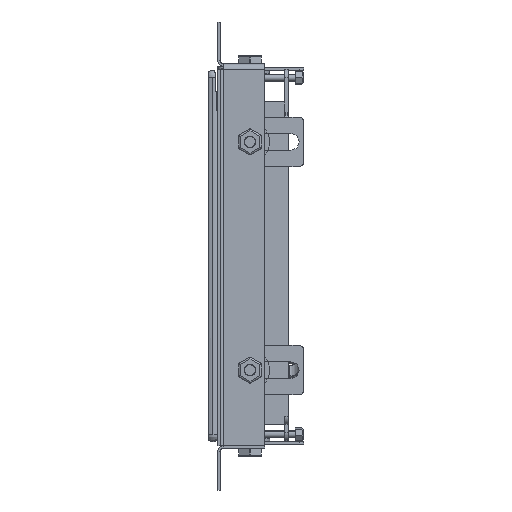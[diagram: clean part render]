
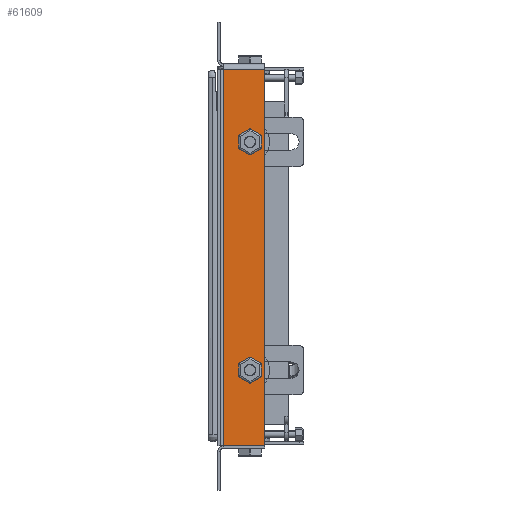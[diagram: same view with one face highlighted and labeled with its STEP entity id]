
A CAD part, left-side view. The second image highlights one B-rep face of the part: STEP entity #61609.
In plain terms, the highlighted planar face has unit normal (-1, 0, 0).
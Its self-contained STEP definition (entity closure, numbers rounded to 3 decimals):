
#160 = LINE ( 'NONE', #56286, #45883 ) ;
#648 = CARTESIAN_POINT ( 'NONE',  ( -198., -12.8, -58.492 ) ) ;
#1014 = DIRECTION ( 'NONE',  ( 0., 1., 0. ) ) ;
#1344 = ORIENTED_EDGE ( 'NONE', *, *, #65567, .F. ) ;
#1903 = VERTEX_POINT ( 'NONE', #61807 ) ;
#2251 = VECTOR ( 'NONE', #29715, 1000. ) ;
#2343 = ORIENTED_EDGE ( 'NONE', *, *, #48770, .F. ) ;
#2355 = CARTESIAN_POINT ( 'NONE',  ( -198., -3.5, -102.5 ) ) ;
#3983 = CARTESIAN_POINT ( 'NONE',  ( -198., -26.2, -54.508 ) ) ;
#5868 = DIRECTION ( 'NONE',  ( 0., 0., -1. ) ) ;
#6470 = CARTESIAN_POINT ( 'NONE',  ( -198., -14.425, -51.694 ) ) ;
#7183 = VECTOR ( 'NONE', #69255, 1000. ) ;
#7687 = VECTOR ( 'NONE', #16863, 1000. ) ;
#8116 = CARTESIAN_POINT ( 'NONE',  ( -198., -21.125, -49.702 ) ) ;
#8741 = EDGE_LOOP ( 'NONE', ( #2343, #39932, #14284, #12449, #22047, #1344 ) ) ;
#8773 = CARTESIAN_POINT ( 'NONE',  ( -198., -19.5, 74.764 ) ) ;
#8813 = VERTEX_POINT ( 'NONE', #9212 ) ;
#9212 = CARTESIAN_POINT ( 'NONE',  ( -198., -19.5, 90.236 ) ) ;
#10204 = EDGE_CURVE ( 'NONE', #49411, #13620, #62606, .T. ) ;
#10438 = LINE ( 'NONE', #65485, #70244 ) ;
#10554 = VECTOR ( 'NONE', #69208, 1000. ) ;
#10914 = VERTEX_POINT ( 'NONE', #61425 ) ;
#11420 = DIRECTION ( 'NONE',  ( 0., -0.866, -0.5 ) ) ;
#11915 = EDGE_CURVE ( 'NONE', #8813, #31139, #10438, .T. ) ;
#12449 = ORIENTED_EDGE ( 'NONE', *, *, #11915, .F. ) ;
#12646 = DIRECTION ( 'NONE',  ( 0., 0., 1. ) ) ;
#12898 = LINE ( 'NONE', #23264, #41042 ) ;
#13620 = VERTEX_POINT ( 'NONE', #57402 ) ;
#14284 = ORIENTED_EDGE ( 'NONE', *, *, #24656, .F. ) ;
#16081 = CARTESIAN_POINT ( 'NONE',  ( -198., -26.2, -52.632 ) ) ;
#16178 = EDGE_LOOP ( 'NONE', ( #72691, #56900, #62225, #46410 ) ) ;
#16863 = DIRECTION ( 'NONE',  ( 0., 0.866, -0.5 ) ) ;
#18143 = AXIS2_PLACEMENT_3D ( 'NONE', #34159, #61928, #1014 ) ;
#18271 = EDGE_CURVE ( 'NONE', #36305, #64346, #53685, .T. ) ;
#19042 = LINE ( 'NONE', #66043, #48045 ) ;
#19091 = CARTESIAN_POINT ( 'NONE',  ( -198., -19.5, -64.236 ) ) ;
#20572 = LINE ( 'NONE', #51703, #55760 ) ;
#21681 = EDGE_CURVE ( 'NONE', #49573, #64346, #36964, .T. ) ;
#22047 = ORIENTED_EDGE ( 'NONE', *, *, #44603, .F. ) ;
#22512 = EDGE_CURVE ( 'NONE', #72817, #50843, #63990, .T. ) ;
#22734 = EDGE_CURVE ( 'NONE', #30781, #72817, #55055, .T. ) ;
#22995 = CARTESIAN_POINT ( 'NONE',  ( -198., -17.875, -63.298 ) ) ;
#23264 = CARTESIAN_POINT ( 'NONE',  ( -198., -21.125, 89.298 ) ) ;
#24656 = EDGE_CURVE ( 'NONE', #31139, #10914, #160, .T. ) ;
#25028 = DIRECTION ( 'NONE',  ( 0., -0.866, -0.5 ) ) ;
#25077 = LINE ( 'NONE', #36091, #2251 ) ;
#25147 = VECTOR ( 'NONE', #59046, 1000. ) ;
#27856 = ORIENTED_EDGE ( 'NONE', *, *, #22512, .F. ) ;
#28538 = ORIENTED_EDGE ( 'NONE', *, *, #22734, .F. ) ;
#29205 = VECTOR ( 'NONE', #42799, 1000. ) ;
#29356 = LINE ( 'NONE', #34955, #72385 ) ;
#29715 = DIRECTION ( 'NONE',  ( 0., 0., 1. ) ) ;
#29931 = CARTESIAN_POINT ( 'NONE',  ( -198., -1.5, 126.5 ) ) ;
#30110 = LINE ( 'NONE', #64811, #34487 ) ;
#30781 = VERTEX_POINT ( 'NONE', #16081 ) ;
#30844 = VECTOR ( 'NONE', #12646, 1000. ) ;
#31139 = VERTEX_POINT ( 'NONE', #49399 ) ;
#32162 = DIRECTION ( 'NONE',  ( 0., -1., 0. ) ) ;
#34159 = CARTESIAN_POINT ( 'NONE',  ( -198., -1.5, 126.5 ) ) ;
#34435 = LINE ( 'NONE', #648, #42337 ) ;
#34487 = VECTOR ( 'NONE', #25028, 1000. ) ;
#34955 = CARTESIAN_POINT ( 'NONE',  ( -198., -28.5, 126.5 ) ) ;
#36091 = CARTESIAN_POINT ( 'NONE',  ( -198., -26.2, 84.492 ) ) ;
#36305 = VERTEX_POINT ( 'NONE', #66610 ) ;
#36964 = LINE ( 'NONE', #41371, #30844 ) ;
#37846 = EDGE_CURVE ( 'NONE', #1903, #49411, #72811, .T. ) ;
#38626 = CARTESIAN_POINT ( 'NONE',  ( -198., -26.2, 86.368 ) ) ;
#38711 = VERTEX_POINT ( 'NONE', #8773 ) ;
#39932 = ORIENTED_EDGE ( 'NONE', *, *, #49209, .F. ) ;
#40047 = ORIENTED_EDGE ( 'NONE', *, *, #37846, .F. ) ;
#41042 = VECTOR ( 'NONE', #62061, 1000. ) ;
#41371 = CARTESIAN_POINT ( 'NONE',  ( -198., -3.5, -102.5 ) ) ;
#42337 = VECTOR ( 'NONE', #56217, 1000. ) ;
#42616 = FACE_BOUND ( 'NONE', #8741, .T. ) ;
#42799 = DIRECTION ( 'NONE',  ( 0., 0., 1. ) ) ;
#43325 = LINE ( 'NONE', #3983, #29205 ) ;
#44603 = EDGE_CURVE ( 'NONE', #66711, #8813, #12898, .T. ) ;
#45123 = EDGE_LOOP ( 'NONE', ( #40047, #59085, #27856, #28538, #57718, #58842 ) ) ;
#45783 = DIRECTION ( 'NONE',  ( 0., -0.866, 0.5 ) ) ;
#45883 = VECTOR ( 'NONE', #5868, 1000. ) ;
#46410 = ORIENTED_EDGE ( 'NONE', *, *, #18271, .T. ) ;
#46707 = CARTESIAN_POINT ( 'NONE',  ( -198., -26.2, 78.632 ) ) ;
#47005 = FACE_OUTER_BOUND ( 'NONE', #16178, .T. ) ;
#48045 = VECTOR ( 'NONE', #32162, 1000. ) ;
#48700 = EDGE_CURVE ( 'NONE', #59521, #36305, #29356, .T. ) ;
#48770 = EDGE_CURVE ( 'NONE', #38711, #53299, #20572, .T. ) ;
#48985 = EDGE_CURVE ( 'NONE', #13620, #30781, #43325, .T. ) ;
#49209 = EDGE_CURVE ( 'NONE', #10914, #38711, #30110, .T. ) ;
#49399 = CARTESIAN_POINT ( 'NONE',  ( -198., -12.8, 86.368 ) ) ;
#49411 = VERTEX_POINT ( 'NONE', #19091 ) ;
#49573 = VERTEX_POINT ( 'NONE', #2355 ) ;
#50234 = CARTESIAN_POINT ( 'NONE',  ( -198., -3.5, 126.5 ) ) ;
#50843 = VERTEX_POINT ( 'NONE', #50914 ) ;
#50914 = CARTESIAN_POINT ( 'NONE',  ( -198., -12.8, -52.632 ) ) ;
#51565 = CARTESIAN_POINT ( 'NONE',  ( -198., -28.5, -102.5 ) ) ;
#51703 = CARTESIAN_POINT ( 'NONE',  ( -198., -24.575, 77.694 ) ) ;
#53299 = VERTEX_POINT ( 'NONE', #46707 ) ;
#53559 = VECTOR ( 'NONE', #11420, 1000. ) ;
#53685 = LINE ( 'NONE', #29931, #10554 ) ;
#55055 = LINE ( 'NONE', #8116, #25147 ) ;
#55760 = VECTOR ( 'NONE', #45783, 1000. ) ;
#55835 = PLANE ( 'NONE',  #18143 ) ;
#56217 = DIRECTION ( 'NONE',  ( 0., 0., -1. ) ) ;
#56286 = CARTESIAN_POINT ( 'NONE',  ( -198., -12.8, 80.508 ) ) ;
#56833 = CARTESIAN_POINT ( 'NONE',  ( -198., -19.5, -48.764 ) ) ;
#56900 = ORIENTED_EDGE ( 'NONE', *, *, #69496, .T. ) ;
#57402 = CARTESIAN_POINT ( 'NONE',  ( -198., -26.2, -60.368 ) ) ;
#57718 = ORIENTED_EDGE ( 'NONE', *, *, #48985, .F. ) ;
#58842 = ORIENTED_EDGE ( 'NONE', *, *, #10204, .F. ) ;
#59046 = DIRECTION ( 'NONE',  ( 0., 0.866, 0.5 ) ) ;
#59085 = ORIENTED_EDGE ( 'NONE', *, *, #62746, .F. ) ;
#59521 = VERTEX_POINT ( 'NONE', #51565 ) ;
#61425 = CARTESIAN_POINT ( 'NONE',  ( -198., -12.8, 78.632 ) ) ;
#61609 = ADVANCED_FACE ( 'NONE', ( #62843, #42616, #47005 ), #55835, .F. ) ;
#61807 = CARTESIAN_POINT ( 'NONE',  ( -198., -12.8, -60.368 ) ) ;
#61928 = DIRECTION ( 'NONE',  ( 1., 0., 0. ) ) ;
#62061 = DIRECTION ( 'NONE',  ( 0., 0.866, 0.5 ) ) ;
#62225 = ORIENTED_EDGE ( 'NONE', *, *, #48700, .T. ) ;
#62606 = LINE ( 'NONE', #63907, #7183 ) ;
#62746 = EDGE_CURVE ( 'NONE', #50843, #1903, #34435, .T. ) ;
#62843 = FACE_BOUND ( 'NONE', #45123, .T. ) ;
#63907 = CARTESIAN_POINT ( 'NONE',  ( -198., -24.575, -61.306 ) ) ;
#63990 = LINE ( 'NONE', #6470, #7687 ) ;
#64346 = VERTEX_POINT ( 'NONE', #50234 ) ;
#64811 = CARTESIAN_POINT ( 'NONE',  ( -198., -17.875, 75.702 ) ) ;
#65485 = CARTESIAN_POINT ( 'NONE',  ( -198., -14.425, 87.306 ) ) ;
#65567 = EDGE_CURVE ( 'NONE', #53299, #66711, #25077, .T. ) ;
#65963 = DIRECTION ( 'NONE',  ( 0., 0.866, -0.5 ) ) ;
#66043 = CARTESIAN_POINT ( 'NONE',  ( -198., -28.5, -102.5 ) ) ;
#66610 = CARTESIAN_POINT ( 'NONE',  ( -198., -28.5, 126.5 ) ) ;
#66711 = VERTEX_POINT ( 'NONE', #38626 ) ;
#68098 = DIRECTION ( 'NONE',  ( 0., 0., 1. ) ) ;
#69208 = DIRECTION ( 'NONE',  ( 0., 1., 0. ) ) ;
#69255 = DIRECTION ( 'NONE',  ( 0., -0.866, 0.5 ) ) ;
#69496 = EDGE_CURVE ( 'NONE', #49573, #59521, #19042, .T. ) ;
#70244 = VECTOR ( 'NONE', #65963, 1000. ) ;
#72385 = VECTOR ( 'NONE', #68098, 1000. ) ;
#72691 = ORIENTED_EDGE ( 'NONE', *, *, #21681, .F. ) ;
#72811 = LINE ( 'NONE', #22995, #53559 ) ;
#72817 = VERTEX_POINT ( 'NONE', #56833 ) ;
